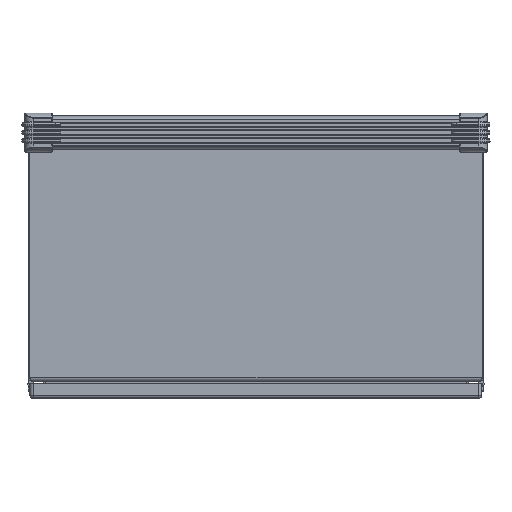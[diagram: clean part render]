
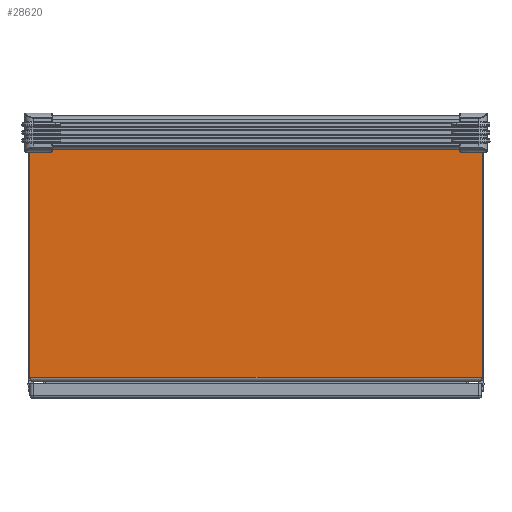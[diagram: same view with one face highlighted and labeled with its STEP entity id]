
A CAD part, left-side view. The second image highlights one B-rep face of the part: STEP entity #28620.
In plain terms, the highlighted planar face has unit normal (-1, 0, 0) as drawn and (1, 0, 0) by its records, which use the part's own axes.
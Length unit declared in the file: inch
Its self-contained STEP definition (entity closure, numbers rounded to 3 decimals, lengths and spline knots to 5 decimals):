
#4220 = CARTESIAN_POINT ( 'NONE',  ( 10.8275, -8.267, 0.662 ) ) ;
#4221 = CARTESIAN_POINT ( 'NONE',  ( 10.8275, -8.267, 0.444 ) ) ;
#4245 = CARTESIAN_POINT ( 'NONE',  ( 10.8275, 0., 0.662 ) ) ;
#4251 = CARTESIAN_POINT ( 'NONE',  ( 10.8275, 0., 0.444 ) ) ;
#4274 = CARTESIAN_POINT ( 'NONE',  ( 10.8275, 8.267, 0.662 ) ) ;
#4276 = CARTESIAN_POINT ( 'NONE',  ( 10.8275, 8.267, 0.444 ) ) ;
#6805 = CARTESIAN_POINT ( 'NONE',  ( 10.8275, -10.25593, 0.132 ) ) ;
#6813 = CARTESIAN_POINT ( 'NONE',  ( 10.8275, -10.25593, 11.65 ) ) ;
#6923 = CARTESIAN_POINT ( 'NONE',  ( 10.8275, 10.25593, 11.65 ) ) ;
#6931 = CARTESIAN_POINT ( 'NONE',  ( 10.8275, 10.25593, 0.132 ) ) ;
#10766 = AXIS2_PLACEMENT_3D ( 'NONE', #14052, #14048, #14043 ) ;
#10790 = AXIS2_PLACEMENT_3D ( 'NONE', #14128, #14120, #14119 ) ;
#10792 = AXIS2_PLACEMENT_3D ( 'NONE', #14068, #14061, #14058 ) ;
#10978 = AXIS2_PLACEMENT_3D ( 'NONE', #15444, #15413, #15411 ) ;
#10986 = AXIS2_PLACEMENT_3D ( 'NONE', #15365, #15331, #15324 ) ;
#10997 = AXIS2_PLACEMENT_3D ( 'NONE', #15274, #15231, #15229 ) ;
#13924 = DIRECTION ( 'NONE',  ( 0., 0., 1. ) ) ;
#13926 = CARTESIAN_POINT ( 'NONE',  ( 10.8275, 10.25593, 11.65 ) ) ;
#14043 = DIRECTION ( 'NONE',  ( 0., 0., -1. ) ) ;
#14048 = DIRECTION ( 'NONE',  ( 1., 0., 0. ) ) ;
#14052 = CARTESIAN_POINT ( 'NONE',  ( 10.8275, -8.267, 0.553 ) ) ;
#14058 = DIRECTION ( 'NONE',  ( 0., 0., -1. ) ) ;
#14061 = DIRECTION ( 'NONE',  ( 1., 0., 0. ) ) ;
#14068 = CARTESIAN_POINT ( 'NONE',  ( 10.8275, 8.267, 0.553 ) ) ;
#14119 = DIRECTION ( 'NONE',  ( 0., 0., -1. ) ) ;
#14120 = DIRECTION ( 'NONE',  ( 1., 0., 0. ) ) ;
#14128 = CARTESIAN_POINT ( 'NONE',  ( 10.8275, 0., 0.553 ) ) ;
#14142 = DIRECTION ( 'NONE',  ( 0., 1., 0. ) ) ;
#14148 = DIRECTION ( 'NONE',  ( 0., 1., 0. ) ) ;
#14151 = CARTESIAN_POINT ( 'NONE',  ( 10.8275, -118.61, 0.132 ) ) ;
#14167 = CARTESIAN_POINT ( 'NONE',  ( 10.8275, -118.61, 11.65 ) ) ;
#14455 = DIRECTION ( 'NONE',  ( 0., 0., -1. ) ) ;
#14497 = CARTESIAN_POINT ( 'NONE',  ( 10.8275, -10.25593, 11.65 ) ) ;
#15229 = DIRECTION ( 'NONE',  ( 0., 0., -1. ) ) ;
#15231 = DIRECTION ( 'NONE',  ( 1., 0., 0. ) ) ;
#15274 = CARTESIAN_POINT ( 'NONE',  ( 10.8275, -8.267, 0.553 ) ) ;
#15324 = DIRECTION ( 'NONE',  ( 0., 0., -1. ) ) ;
#15331 = DIRECTION ( 'NONE',  ( 1., 0., 0. ) ) ;
#15359 = EDGE_LOOP ( 'NONE', ( #68188, #68187, #68186, #68185 ) ) ;
#15360 = EDGE_LOOP ( 'NONE', ( #68191, #68190 ) ) ;
#15365 = CARTESIAN_POINT ( 'NONE',  ( 10.8275, 0., 0.553 ) ) ;
#15367 = EDGE_LOOP ( 'NONE', ( #68193, #68192 ) ) ;
#15411 = DIRECTION ( 'NONE',  ( 0., 0., -1. ) ) ;
#15413 = DIRECTION ( 'NONE',  ( 1., 0., 0. ) ) ;
#15424 = EDGE_LOOP ( 'NONE', ( #68195, #68194 ) ) ;
#15444 = CARTESIAN_POINT ( 'NONE',  ( 10.8275, 8.267, 0.553 ) ) ;
#28620 = ADVANCED_FACE ( 'NONE', ( #41621, #41630, #41632, #41636 ), #38097, .T. ) ;
#30497 = LINE ( 'NONE', #14167, #30503 ) ;
#30501 = LINE ( 'NONE', #14151, #30502 ) ;
#30502 = VECTOR ( 'NONE', #14148, 39.37008 ) ;
#30503 = VECTOR ( 'NONE', #14142, 39.37008 ) ;
#30509 = CIRCLE ( 'NONE', #10790, 0.109 ) ;
#30519 = CIRCLE ( 'NONE', #10792, 0.109 ) ;
#30521 = CIRCLE ( 'NONE', #10766, 0.109 ) ;
#30533 = LINE ( 'NONE', #13926, #30534 ) ;
#30534 = VECTOR ( 'NONE', #13924, 39.37008 ) ;
#30593 = LINE ( 'NONE', #14497, #30598 ) ;
#30598 = VECTOR ( 'NONE', #14455, 39.37008 ) ;
#30801 = CIRCLE ( 'NONE', #10978, 0.109 ) ;
#30813 = CIRCLE ( 'NONE', #10986, 0.109 ) ;
#30825 = CIRCLE ( 'NONE', #10997, 0.109 ) ;
#38094 = DIRECTION ( 'NONE',  ( 0., 0., -1. ) ) ;
#38095 = DIRECTION ( 'NONE',  ( 1., 0., 0. ) ) ;
#38096 = CARTESIAN_POINT ( 'NONE',  ( 10.8275, -118.61, 11.65 ) ) ;
#38097 = PLANE ( 'NONE',  #52667 ) ;
#41621 = FACE_BOUND ( 'NONE', #15424, .T. ) ;
#41630 = FACE_BOUND ( 'NONE', #15367, .T. ) ;
#41632 = FACE_BOUND ( 'NONE', #15360, .T. ) ;
#41636 = FACE_OUTER_BOUND ( 'NONE', #15359, .T. ) ;
#52667 = AXIS2_PLACEMENT_3D ( 'NONE', #38096, #38095, #38094 ) ;
#52822 = EDGE_CURVE ( 'NONE', #69279, #69199, #30501, .T. ) ;
#52823 = EDGE_CURVE ( 'NONE', #69274, #69204, #30497, .T. ) ;
#52825 = EDGE_CURVE ( 'NONE', #69522, #69523, #30509, .T. ) ;
#52831 = EDGE_CURVE ( 'NONE', #69514, #69515, #30519, .T. ) ;
#52832 = EDGE_CURVE ( 'NONE', #69530, #69531, #30521, .T. ) ;
#52842 = EDGE_CURVE ( 'NONE', #69199, #69204, #30533, .T. ) ;
#52885 = EDGE_CURVE ( 'NONE', #69274, #69279, #30593, .T. ) ;
#53018 = EDGE_CURVE ( 'NONE', #69515, #69514, #30801, .T. ) ;
#53026 = EDGE_CURVE ( 'NONE', #69523, #69522, #30813, .T. ) ;
#53034 = EDGE_CURVE ( 'NONE', #69531, #69530, #30825, .T. ) ;
#68185 = ORIENTED_EDGE ( 'NONE', *, *, #52822, .T. ) ;
#68186 = ORIENTED_EDGE ( 'NONE', *, *, #52885, .T. ) ;
#68187 = ORIENTED_EDGE ( 'NONE', *, *, #52823, .F. ) ;
#68188 = ORIENTED_EDGE ( 'NONE', *, *, #52842, .T. ) ;
#68190 = ORIENTED_EDGE ( 'NONE', *, *, #52831, .F. ) ;
#68191 = ORIENTED_EDGE ( 'NONE', *, *, #53018, .F. ) ;
#68192 = ORIENTED_EDGE ( 'NONE', *, *, #52825, .F. ) ;
#68193 = ORIENTED_EDGE ( 'NONE', *, *, #53026, .F. ) ;
#68194 = ORIENTED_EDGE ( 'NONE', *, *, #52832, .F. ) ;
#68195 = ORIENTED_EDGE ( 'NONE', *, *, #53034, .F. ) ;
#69199 = VERTEX_POINT ( 'NONE', #6931 ) ;
#69204 = VERTEX_POINT ( 'NONE', #6923 ) ;
#69274 = VERTEX_POINT ( 'NONE', #6813 ) ;
#69279 = VERTEX_POINT ( 'NONE', #6805 ) ;
#69514 = VERTEX_POINT ( 'NONE', #4276 ) ;
#69515 = VERTEX_POINT ( 'NONE', #4274 ) ;
#69522 = VERTEX_POINT ( 'NONE', #4251 ) ;
#69523 = VERTEX_POINT ( 'NONE', #4245 ) ;
#69530 = VERTEX_POINT ( 'NONE', #4221 ) ;
#69531 = VERTEX_POINT ( 'NONE', #4220 ) ;
